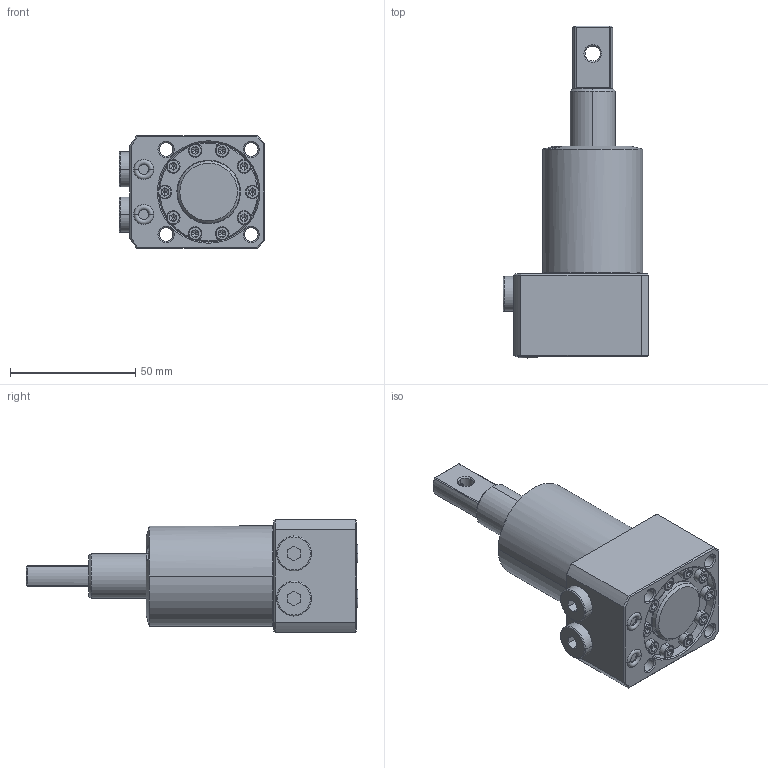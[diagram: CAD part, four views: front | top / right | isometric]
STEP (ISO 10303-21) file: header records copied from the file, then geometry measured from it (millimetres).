
FILE_DESCRIPTION((''),'2;1');
FILE_NAME('SIMP_GENERIC_SWING_CYD_40_PIN_ASM','2023-04-16T15:48:03',('Design 2'),(''),'CREO PARAMETRIC BY PTC INC, 2020053','CREO PARAMETRIC BY PTC INC, 2020053','');
FILE_SCHEMA(('CONFIG_CONTROL_DESIGN'));
Length unit declared in the file: millimetre
Products named in the file (13): BODY___; BODY_TOP_FLG____ASM; PIN_PISTON__; PISTON_ASM____ASM; SWINGER_ARM___; SWINGER_ARM_ASM____ASM; 1_1_2_-___; 2_1_2_-___; HALDER_SEALING_PLUUG_ASM; G-1-8-CLOSE_PLUGE_; ORING-5X1-5SS_; ISHCS03X12_; SIMP_GENERIC_SWING_CYD_40_PIN_ASM
Assembly tree (23 placements, depth 3):
  SIMP_GENERIC_SWING_CYD_40_PIN_ASM
    BODY_TOP_FLG____ASM
      BODY___
    PISTON_ASM____ASM
      PIN_PISTON__
    SWINGER_ARM_ASM____ASM
      SWINGER_ARM___
    HALDER_SEALING_PLUUG_ASM
      1_1_2_-___
      2_1_2_-___
    G-1-8-CLOSE_PLUGE_  x2
    ORING-5X1-5SS_  x2
    ISHCS03X12_  x10
Bounding box: 58.3 x 132.7 x 45 mm (x, y, z)
Volume: 141827.7 mm3; surface area: 39410.9 mm2
Topology: 19 solids, 19 shells, 715 faces, 1564 edges, 900 vertices
Faces by surface type: cylinder 227, plane 226, cone 199, torus 38, bspline 22, sphere 3
Entity records: 14989 total; most frequent: CARTESIAN_POINT 5767, DIRECTION 1960, ORIENTED_EDGE 1780, EDGE_CURVE 890, AXIS2_PLACEMENT_3D 779, VERTEX_POINT 526, EDGE_LOOP 456, VECTOR 402
